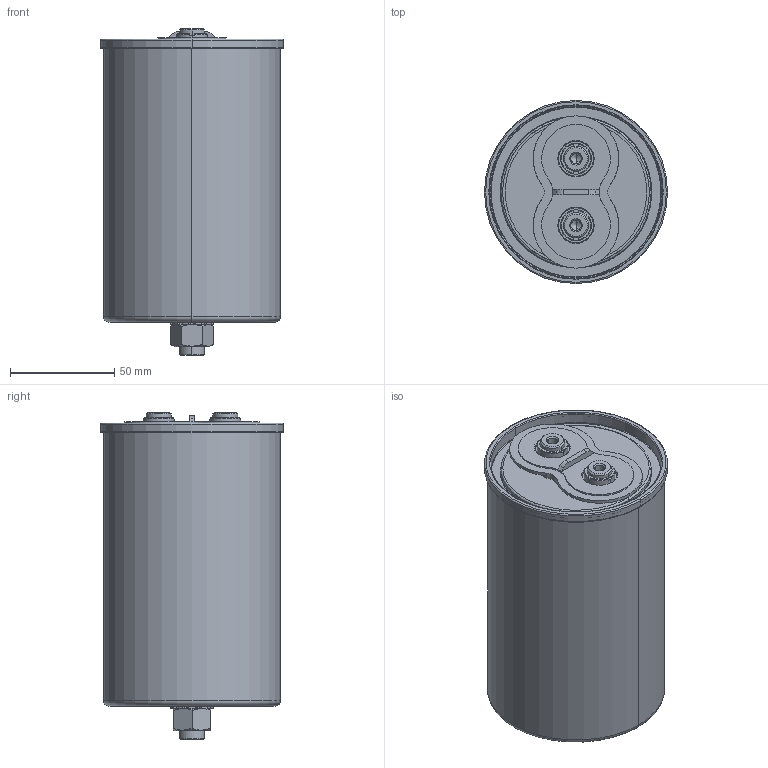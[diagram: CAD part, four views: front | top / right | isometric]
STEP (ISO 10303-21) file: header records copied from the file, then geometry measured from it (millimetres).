
FILE_DESCRIPTION (( 'STEP AP203' ), '1' );
FILE_NAME ('B25680Bx_85x136_141.STEP', '2021-09-10T03:50:50', ( '' ), ( '' ), 'SwSTEP 2.0', 'SolidWorks 2017', '' );
FILE_SCHEMA (( 'CONFIG_CONTROL_DESIGN' ));
Length unit declared in the file: millimetre
Products named in the file (1): B25680Bx_85x136_141
Bounding box: 88 x 88 x 157 mm (x, y, z)
Volume: 65292.3 mm3; surface area: 116221.4 mm2
Topology: 1 solids, 9 shells, 413 faces, 974 edges, 606 vertices
Faces by surface type: plane 163, cylinder 142, cone 42, bspline 36, torus 30
Entity records: 15024 total; most frequent: CARTESIAN_POINT 5318, DIRECTION 2138, ORIENTED_EDGE 1940, EDGE_CURVE 970, AXIS2_PLACEMENT_3D 858, VERTEX_POINT 606, CIRCLE 480, EDGE_LOOP 460
